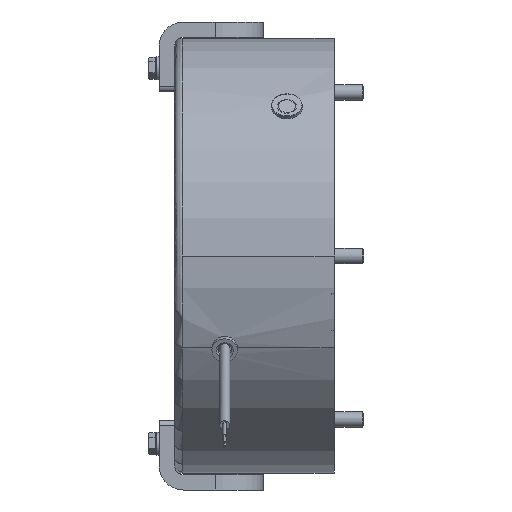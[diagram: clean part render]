
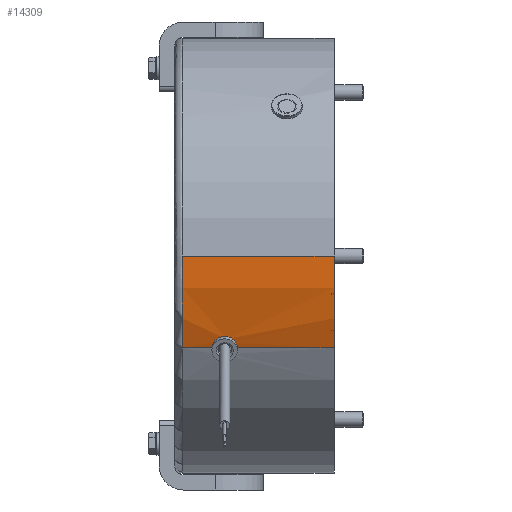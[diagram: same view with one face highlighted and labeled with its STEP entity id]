
A CAD part, front view. The second image highlights one B-rep face of the part: STEP entity #14309.
In plain terms, the highlighted cylindrical face has radius 113 mm (diameter 226 mm), a partial arc.
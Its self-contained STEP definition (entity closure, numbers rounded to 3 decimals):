
#321=B_SPLINE_CURVE_WITH_KNOTS('',3,(#22864,#22865,#22866,#22867,#22868,
#22869,#22870,#22871,#22872,#22873,#22874,#22875,#22876,#22877,#22878,#22879,
#22880,#22881,#22882),.UNSPECIFIED.,.F.,.F.,(4,2,2,2,3,2,2,2,4),(2.348,
2.544,2.74,2.936,3.131,3.327,
3.523,3.718,3.914),.UNSPECIFIED.);
#603=CYLINDRICAL_SURFACE('',#15496,113.);
#1370=CIRCLE('',#15497,113.);
#1371=CIRCLE('',#15498,113.);
#2237=FACE_OUTER_BOUND('',#3046,.T.);
#3046=EDGE_LOOP('',(#10108,#10109,#10110,#10111,#10112,#10113,#10114,#10115));
#3997=LINE('',#22547,#4705);
#3998=LINE('',#22555,#4706);
#3999=LINE('',#22561,#4707);
#4000=LINE('',#22563,#4708);
#4001=LINE('',#22583,#4709);
#4705=VECTOR('',#17851,113.);
#4706=VECTOR('',#17858,113.);
#4707=VECTOR('',#17863,113.);
#4708=VECTOR('',#17864,10.);
#4709=VECTOR('',#17865,10.);
#5663=VERTEX_POINT('',#22545);
#5664=VERTEX_POINT('',#22546);
#5667=VERTEX_POINT('',#22552);
#5668=VERTEX_POINT('',#22554);
#5670=VERTEX_POINT('',#22558);
#5671=VERTEX_POINT('',#22560);
#5672=VERTEX_POINT('',#22562);
#5673=VERTEX_POINT('',#22564);
#7285=EDGE_CURVE('',#5663,#5664,#3997,.T.);
#7289=EDGE_CURVE('',#5668,#5667,#3998,.T.);
#7292=EDGE_CURVE('',#5671,#5670,#3999,.T.);
#7293=EDGE_CURVE('',#5672,#5671,#4000,.T.);
#7295=EDGE_CURVE('',#5664,#5673,#4001,.T.);
#7363=EDGE_CURVE('',#5673,#5672,#321,.T.);
#7385=EDGE_CURVE('',#5668,#5670,#1370,.T.);
#7386=EDGE_CURVE('',#5663,#5667,#1371,.T.);
#10108=ORIENTED_EDGE('',*,*,#7285,.T.);
#10109=ORIENTED_EDGE('',*,*,#7295,.T.);
#10110=ORIENTED_EDGE('',*,*,#7363,.T.);
#10111=ORIENTED_EDGE('',*,*,#7293,.T.);
#10112=ORIENTED_EDGE('',*,*,#7292,.T.);
#10113=ORIENTED_EDGE('',*,*,#7385,.F.);
#10114=ORIENTED_EDGE('',*,*,#7289,.T.);
#10115=ORIENTED_EDGE('',*,*,#7386,.F.);
#14309=ADVANCED_FACE('',(#2237),#603,.T.);
#15496=AXIS2_PLACEMENT_3D('',#22941,#18059,#18060);
#15497=AXIS2_PLACEMENT_3D('',#22942,#18061,#18062);
#15498=AXIS2_PLACEMENT_3D('',#22943,#18063,#18064);
#17851=DIRECTION('',(1.,0.,0.));
#17858=DIRECTION('',(-1.,0.,0.));
#17863=DIRECTION('',(1.,0.,0.));
#17864=DIRECTION('',(1.,0.,0.));
#17865=DIRECTION('',(1.,0.,0.));
#18059=DIRECTION('center_axis',(1.,0.,0.));
#18060=DIRECTION('ref_axis',(0.,0.906,0.423));
#18061=DIRECTION('center_axis',(1.,0.,0.));
#18062=DIRECTION('ref_axis',(0.,1.,0.));
#18063=DIRECTION('center_axis',(-1.,0.,0.));
#18064=DIRECTION('ref_axis',(0.,-1.,0.));
#22545=CARTESIAN_POINT('',(-78.8,-102.413,-47.756));
#22546=CARTESIAN_POINT('',(-63.4,-102.413,-47.756));
#22547=CARTESIAN_POINT('',(-41.4,-102.413,-47.756));
#22552=CARTESIAN_POINT('',(-78.8,-113.,0.));
#22554=CARTESIAN_POINT('',(0.,-113.,0.));
#22555=CARTESIAN_POINT('',(-41.4,-113.,0.));
#22558=CARTESIAN_POINT('',(0.,-102.413,-47.756));
#22560=CARTESIAN_POINT('',(-50.2,-102.413,-47.756));
#22561=CARTESIAN_POINT('',(-41.4,-102.413,-47.756));
#22562=CARTESIAN_POINT('',(-51.6,-102.413,-47.756));
#22563=CARTESIAN_POINT('',(-41.4,-102.413,-47.756));
#22564=CARTESIAN_POINT('',(-62.,-102.413,-47.756));
#22583=CARTESIAN_POINT('',(-41.4,-102.413,-47.756));
#22864=CARTESIAN_POINT('Ctrl Pts',(-62.,-102.413,-47.756));
#22865=CARTESIAN_POINT('Ctrl Pts',(-62.,-102.689,-47.164));
#22866=CARTESIAN_POINT('Ctrl Pts',(-61.869,-102.977,
-46.531));
#22867=CARTESIAN_POINT('Ctrl Pts',(-61.337,-103.498,
-45.361));
#22868=CARTESIAN_POINT('Ctrl Pts',(-60.936,-103.73,
-44.825));
#22869=CARTESIAN_POINT('Ctrl Pts',(-60.011,-104.092,
-43.979));
#22870=CARTESIAN_POINT('Ctrl Pts',(-59.427,-104.246,
-43.611));
#22871=CARTESIAN_POINT('Ctrl Pts',(-58.147,-104.449,
-43.123));
#22872=CARTESIAN_POINT('Ctrl Pts',(-57.452,-104.498,
-43.003));
#22873=CARTESIAN_POINT('Ctrl Pts',(-56.8,-104.498,-43.003));
#22874=CARTESIAN_POINT('Ctrl Pts',(-56.148,-104.498,
-43.003));
#22875=CARTESIAN_POINT('Ctrl Pts',(-55.452,-104.448,
-43.123));
#22876=CARTESIAN_POINT('Ctrl Pts',(-54.172,-104.245,
-43.612));
#22877=CARTESIAN_POINT('Ctrl Pts',(-53.587,-104.091,
-43.98));
#22878=CARTESIAN_POINT('Ctrl Pts',(-52.663,-103.729,
-44.827));
#22879=CARTESIAN_POINT('Ctrl Pts',(-52.263,-103.497,
-45.362));
#22880=CARTESIAN_POINT('Ctrl Pts',(-51.731,-102.977,
-46.531));
#22881=CARTESIAN_POINT('Ctrl Pts',(-51.6,-102.689,
-47.165));
#22882=CARTESIAN_POINT('Ctrl Pts',(-51.6,-102.413,
-47.756));
#22941=CARTESIAN_POINT('Origin',(-41.4,0.,0.));
#22942=CARTESIAN_POINT('Origin',(0.,0.,0.));
#22943=CARTESIAN_POINT('Origin',(-78.8,0.,0.));
